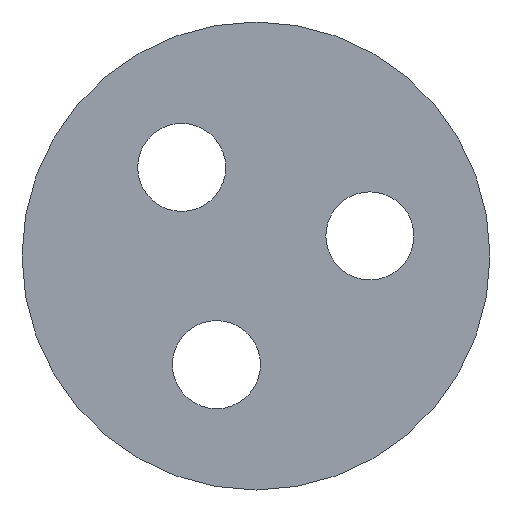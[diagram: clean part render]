
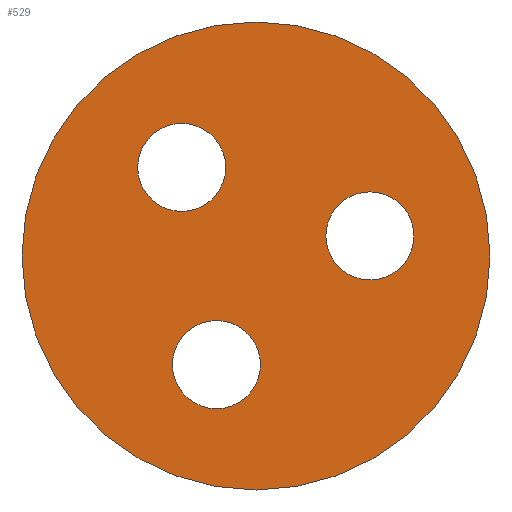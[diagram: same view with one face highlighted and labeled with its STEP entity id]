
A CAD part, left-side view. The second image highlights one B-rep face of the part: STEP entity #529.
In plain terms, the highlighted planar face has unit normal (-1, 0, 0).
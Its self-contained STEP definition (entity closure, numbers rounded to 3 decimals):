
#129=FACE_BOUND('',#201,.T.);
#130=FACE_BOUND('',#202,.T.);
#131=FACE_BOUND('',#203,.T.);
#159=FACE_OUTER_BOUND('',#200,.T.);
#200=EDGE_LOOP('',(#472));
#201=EDGE_LOOP('',(#473));
#202=EDGE_LOOP('',(#474));
#203=EDGE_LOOP('',(#475));
#218=CIRCLE('',#560,1.6);
#220=CIRCLE('',#563,1.6);
#222=CIRCLE('',#566,1.6);
#227=CIRCLE('',#593,8.5);
#246=VERTEX_POINT('',#787);
#248=VERTEX_POINT('',#793);
#250=VERTEX_POINT('',#799);
#273=VERTEX_POINT('',#886);
#293=EDGE_CURVE('',#246,#246,#218,.T.);
#296=EDGE_CURVE('',#248,#248,#220,.T.);
#299=EDGE_CURVE('',#250,#250,#222,.T.);
#341=EDGE_CURVE('',#273,#273,#227,.T.);
#472=ORIENTED_EDGE('',*,*,#341,.T.);
#473=ORIENTED_EDGE('',*,*,#299,.T.);
#474=ORIENTED_EDGE('',*,*,#293,.T.);
#475=ORIENTED_EDGE('',*,*,#296,.T.);
#501=PLANE('',#592);
#529=ADVANCED_FACE('',(#159,#129,#130,#131),#501,.T.);
#560=AXIS2_PLACEMENT_3D('',#788,#634,#635);
#563=AXIS2_PLACEMENT_3D('',#794,#641,#642);
#566=AXIS2_PLACEMENT_3D('',#800,#648,#649);
#592=AXIS2_PLACEMENT_3D('',#885,#737,#738);
#593=AXIS2_PLACEMENT_3D('',#887,#739,#740);
#634=DIRECTION('center_axis',(1.,0.,0.));
#635=DIRECTION('ref_axis',(0.,-0.94,-0.342));
#641=DIRECTION('center_axis',(1.,0.,0.));
#642=DIRECTION('ref_axis',(0.,-0.94,-0.342));
#648=DIRECTION('center_axis',(1.,0.,0.));
#649=DIRECTION('ref_axis',(0.,-0.94,-0.342));
#737=DIRECTION('center_axis',(-1.,0.,0.));
#738=DIRECTION('ref_axis',(0.,-0.94,-0.342));
#739=DIRECTION('center_axis',(-1.,0.,0.));
#740=DIRECTION('ref_axis',(0.,-0.94,-0.342));
#787=CARTESIAN_POINT('',(127.226,-297.06,-14.484));
#788=CARTESIAN_POINT('Origin',(127.226,-298.564,-15.031));
#793=CARTESIAN_POINT('',(127.226,-295.797,-7.32));
#794=CARTESIAN_POINT('Origin',(127.226,-297.301,-7.867));
#799=CARTESIAN_POINT('',(127.226,-302.633,-9.808));
#800=CARTESIAN_POINT('Origin',(127.226,-304.137,-10.355));
#885=CARTESIAN_POINT('Origin',(127.226,-300.,-11.085));
#886=CARTESIAN_POINT('',(127.226,-292.013,-8.177));
#887=CARTESIAN_POINT('Origin',(127.226,-300.,-11.085));
